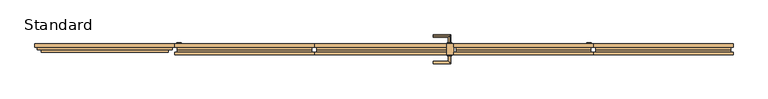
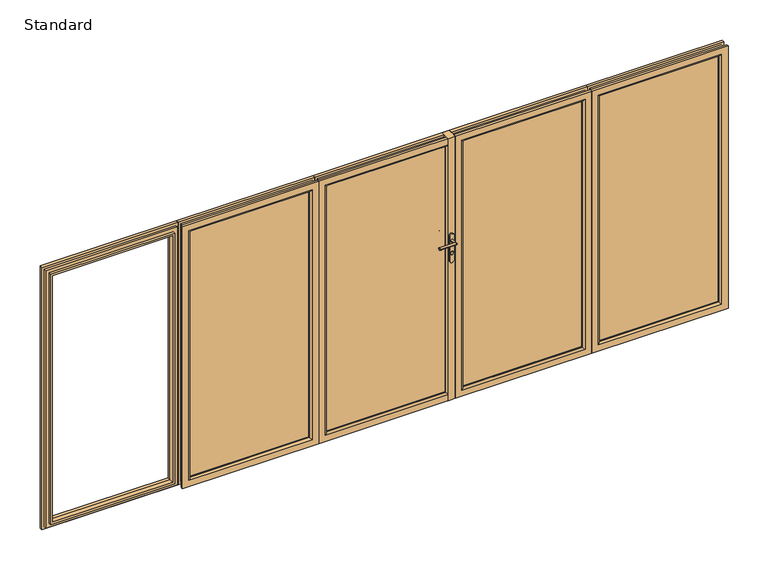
"""IFC4 building model written with IfcOpenShell, lengths in millimetres: door geometry, SMARTS_Visofold1000 : Standard."""

from ifc_helpers import new_model, si_unit, point, frame, frame_2d, origin, origin_with_axes, place, context, project, spatial, polyline, circle_curve, ellipse_curve, trimmed, segment, composite_curve, outline, extrude, faceted_brep, source, transform, mapped, element, save
from ifc_brep_helpers import plane_surface, cylinder_surface, advanced_brep


def standard_4c84618e(model_context):
    return source(origin(), model_context, "Body", "SolidModel", [
        extrude(outline(composite_curve([segment(polyline([(1228.0996413, 1430.0), (1040.0996413, 1430.0)]), True, "CONTINUOUS"), segment(trimmed(circle_curve(frame_2d((1040.0996413, 1446.0)), 16.0), [point((1040.0996413, 1430.0))], [point((1040.0996413, 1462.0))], False, "CARTESIAN"), True, "CONTINUOUS"), segment(polyline([(1040.0996413, 1462.0), (1228.0996413, 1462.0)]), True, "CONTINUOUS"), segment(trimmed(circle_curve(frame_2d((1228.0996413, 1446.0)), 16.0), [point((1228.0996413, 1462.0))], [point((1228.0996413, 1430.0))], False, "CARTESIAN"), True, "CONTINUOUS")], self_intersect=False)), frame((0.0, 75.0, 0.0), z_axis=(0.0, 1.0, 0.0), x_axis=(0.0, 0.0, 1.0)), (0.0, 0.0, 1.0), 10.0),
        extrude(outline(polyline([(45.0, 1431.0), (1955.0, 1431.0), (1955.0, 537.0), (45.0, 537.0), (45.0, 1431.0)]), holes=[polyline([(1939.5, 1415.5), (60.5, 1415.5), (60.5, 552.5), (1939.5, 552.5), (1939.5, 1415.5)])]), frame((0.0, 17.4, 0.0), z_axis=(0.0, 1.0, 0.0), x_axis=(0.0, 0.0, 1.0)), (0.0, 0.0, 1.0), 35.0),
        faceted_brep([(1476.0, 74.4, 0.0), (1476.0, 74.4, 2000.0), (1476.0, 52.4, 2000.0), (1476.0, 52.4, 0.0), (1415.5, 52.4, 60.5), (1415.5, 52.4, 1939.5), (1415.5, 74.4, 1939.5), (1415.5, 74.4, 60.5), (492.0, 74.4, 2000.0), (492.0, 52.4, 2000.0), (552.5, 52.4, 1939.5), (552.5, 74.4, 1939.5), (492.0, 74.4, 0.0), (492.0, 52.4, 0.0), (552.5, 52.4, 60.5), (552.5, 74.4, 60.5), (1458.1308519, 34.8, 17.8691481), (1458.1308519, 34.8, 1982.1308519), (509.8691481, 34.8, 1982.1308519), (509.8691481, 34.8, 17.8691481), (1431.0, 34.8, 1955.0), (1431.0, 34.8, 45.0), (537.0, 34.8, 45.0), (537.0, 34.8, 1955.0), (1458.1308519, 52.4, 17.8691481), (1458.1308519, 52.4, 1982.1308519), (1431.0, 52.4, 1955.0), (1431.0, 52.4, 45.0), (509.8691481, 52.4, 1982.1308519), (537.0, 52.4, 1955.0), (509.8691481, 52.4, 17.8691481), (537.0, 52.4, 45.0)], [[[0, 1, 2, 3]], [[4, 5, 6, 7]], [[1, 8, 9, 2]], [[5, 10, 11, 6]], [[8, 12, 13, 9]], [[10, 14, 15, 11]], [[12, 0, 3, 13]], [[1, 0, 12, 8], [7, 6, 11, 15]], [[14, 4, 7, 15]], [[16, 17, 18, 19], [20, 21, 22, 23]], [[24, 25, 17, 16]], [[21, 20, 26, 27]], [[25, 28, 18, 17]], [[20, 23, 29, 26]], [[28, 30, 19, 18]], [[23, 22, 31, 29]], [[30, 24, 16, 19]], [[3, 2, 9, 13], [25, 24, 30, 28]], [[27, 26, 29, 31], [5, 4, 14, 10]], [[22, 21, 27, 31]]]),
        advanced_brep(
        [(1415.5, 13.3, 60.5), (1415.5, 13.3, 1939.5), (1415.5, 17.4, 1939.5), (1415.5, 17.4, 60.5), (1476.0, 17.4, 0.0), (1476.0, 17.4, 2000.0), (1476.0, 0.0, 2000.0), (1476.0, 0.0, 0.0), (552.5, 13.3, 1939.5), (552.5, 17.4, 1939.5), (492.0, 17.4, 2000.0), (492.0, 0.0, 2000.0), (552.5, 13.3, 60.5), (552.5, 17.4, 60.5), (492.0, 17.4, 0.0), (492.0, 0.0, 0.0), (1428.8, 0.0, 1952.8), (1428.8, 0.0, 47.2), (539.2, 0.0, 47.2), (539.2, 0.0, 1952.8), (1458.1308519, 34.8, 17.8691481), (1458.1308519, 34.8, 1982.1308519), (1458.1308519, 17.4, 1982.1308519), (1458.1308519, 17.4, 17.8691481), (509.8691481, 34.8, 1982.1308519), (509.8691481, 17.4, 1982.1308519), (509.8691481, 34.8, 17.8691481), (509.8691481, 17.4, 17.8691481), (1431.0, 17.4, 45.0), (1431.0, 17.4, 1955.0), (1431.0, 34.8, 1955.0), (1431.0, 34.8, 45.0), (537.0, 17.4, 1955.0), (537.0, 34.8, 1955.0), (537.0, 17.4, 45.0), (537.0, 34.8, 45.0)],
        [
            (0, 1),
            (1, 2),
            (2, 3),
            (3, 0),
            (4, 5),
            (5, 6),
            (6, 7),
            (7, 4),
            (1, 8),
            (8, 9),
            (9, 2),
            (5, 10),
            (10, 11),
            (11, 6),
            (8, 12),
            (12, 13),
            (13, 9),
            (10, 14),
            (14, 15),
            (15, 11),
            (12, 0),
            (3, 13),
            (15, 7),
            (16, 17),
            (17, 18),
            (18, 19),
            (19, 16),
            (14, 4),
            (16, 1, ellipse_curve(frame((1428.8, 13.3, 1952.8), z_axis=(0.7071067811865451, 0.0, -0.7071067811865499), x_axis=(-0.70710678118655, 0.0, -0.7071067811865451)), 18.8090404, 13.3)),
            (0, 17, ellipse_curve(frame((1428.8, 13.3, 47.2), z_axis=(0.70710678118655, 0.0, 0.707106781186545), x_axis=(0.707106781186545, 0.0, -0.7071067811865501)), 18.8090404, 13.3)),
            (19, 8, ellipse_curve(frame((539.2, 13.3, 1952.8), z_axis=(0.70710678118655, 0.0, 0.707106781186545), x_axis=(0.707106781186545, 0.0, -0.7071067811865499)), 18.8090404, 13.3)),
            (18, 12, ellipse_curve(frame((539.2, 13.3, 47.2), z_axis=(-0.7071067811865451, 0.0, 0.7071067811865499), x_axis=(0.70710678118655, 0.0, 0.7071067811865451)), 18.8090404, 13.3)),
            (20, 21),
            (21, 22),
            (22, 23),
            (23, 20),
            (21, 24),
            (24, 25),
            (25, 22),
            (24, 26),
            (26, 27),
            (27, 25),
            (27, 23),
            (26, 20),
            (28, 29),
            (29, 30),
            (30, 31),
            (31, 28),
            (29, 32),
            (32, 33),
            (33, 30),
            (32, 34),
            (34, 35),
            (35, 33),
            (34, 28),
            (31, 35),
        ],
        [
            plane_surface(frame((1415.5, 17.4, 60.5), z_axis=(-1.0, 0.0, 0.0), x_axis=(0.0, 0.0, 1.0))),
            plane_surface(frame((1476.0, 0.0, 0.0), z_axis=(1.0, 0.0, 0.0), x_axis=(0.0, 0.0, 1.0))),
            plane_surface(frame((1415.5, 17.4, 1939.5), z_axis=(0.0, 0.0, -1.0), x_axis=(-1.0, 0.0, 0.0))),
            plane_surface(frame((1476.0, 0.0, 2000.0), z_axis=(0.0, 0.0, 1.0), x_axis=(-1.0, 0.0, 0.0))),
            plane_surface(frame((552.5, 17.4, 1939.5), z_axis=(1.0, 0.0, 0.0), x_axis=(0.0, 0.0, -1.0))),
            plane_surface(frame((492.0, 0.0, 2000.0), z_axis=(-1.0, 0.0, 0.0), x_axis=(0.0, 0.0, -1.0))),
            plane_surface(frame((552.5, 17.4, 60.5), z_axis=(0.0, 0.0, 1.0), x_axis=(1.0, 0.0, 0.0))),
            plane_surface(frame((539.2, 0.0, 47.2), z_axis=(0.0, -1.0, 0.0), x_axis=(1.0, 0.0, 0.0))),
            plane_surface(frame((492.0, 0.0, 0.0), z_axis=(0.0, 0.0, -1.0), x_axis=(1.0, 0.0, 0.0))),
            cylinder_surface(frame((1428.8, 13.3, 0.0), z_axis=(0.0, 0.0, -1.0), x_axis=(0.0, 1.0, 0.0)), 13.3),
            cylinder_surface(frame((1476.0, 13.3, 1952.8), z_axis=(1.0, 0.0, 0.0), x_axis=(0.0, 1.0, 0.0)), 13.3),
            cylinder_surface(frame((539.2, 13.3, 2000.0), z_axis=(0.0, 0.0, 1.0), x_axis=(0.0, 1.0, 0.0)), 13.3),
            cylinder_surface(frame((492.0, 13.3, 47.2), z_axis=(-1.0, 0.0, 0.0), x_axis=(0.0, 1.0, 0.0)), 13.3),
            plane_surface(frame((1458.1308519, 17.4, 17.8691481), z_axis=(1.0, 0.0, 0.0), x_axis=(0.0, 0.0, 1.0))),
            plane_surface(frame((1458.1308519, 17.4, 1982.1308519), z_axis=(0.0, 0.0, 1.0), x_axis=(-1.0, 0.0, 0.0))),
            plane_surface(frame((509.8691481, 17.4, 1982.1308519), z_axis=(-1.0, 0.0, 0.0), x_axis=(0.0, 0.0, -1.0))),
            plane_surface(frame((492.0, 17.4, 0.0), z_axis=(0.0, 1.0, 0.0), x_axis=(1.0, 0.0, 0.0))),
            plane_surface(frame((509.8691481, 17.4, 17.8691481), z_axis=(0.0, 0.0, -1.0), x_axis=(1.0, 0.0, 0.0))),
            plane_surface(frame((1431.0, 34.8, 45.0), z_axis=(-1.0, 0.0, 0.0), x_axis=(0.0, 0.0, 1.0))),
            plane_surface(frame((1431.0, 34.8, 1955.0), z_axis=(0.0, 0.0, -1.0), x_axis=(-1.0, 0.0, 0.0))),
            plane_surface(frame((537.0, 34.8, 1955.0), z_axis=(1.0, 0.0, 0.0), x_axis=(0.0, 0.0, -1.0))),
            plane_surface(frame((537.0, 34.8, 45.0), z_axis=(0.0, 0.0, 1.0), x_axis=(1.0, 0.0, 0.0))),
            plane_surface(frame((537.0, 17.4, 45.0), z_axis=(0.0, 1.0, 0.0), x_axis=(1.0, 0.0, 0.0))),
            plane_surface(frame((509.8691481, 34.8, 17.8691481), z_axis=(0.0, 1.0, 0.0), x_axis=(1.0, 0.0, 0.0))),
        ],
        [
            (0, [[1, 2, 3, 4]]),
            (1, [[5, 6, 7, 8]]),
            (2, [[9, 10, 11, -2]]),
            (3, [[12, 13, 14, -6]]),
            (4, [[15, 16, 17, -10]]),
            (5, [[18, 19, 20, -13]]),
            (6, [[21, -4, 22, -16]]),
            (7, [[-7, -14, -20, 23], [24, 25, 26, 27]]),
            (8, [[28, -8, -23, -19]]),
            (9, [[-24, 29, -1, 30]]),
            (10, [[-27, 31, -9, -29]]),
            (11, [[-26, 32, -15, -31]]),
            (12, [[-25, -30, -21, -32]]),
            (13, [[33, 34, 35, 36]]),
            (14, [[37, 38, 39, -34]]),
            (15, [[40, 41, 42, -38]]),
            (16, [[-5, -28, -18, -12], [-35, -39, -42, 43]]),
            (17, [[44, -36, -43, -41]]),
            (18, [[45, 46, 47, 48]]),
            (19, [[49, 50, 51, -46]]),
            (20, [[52, 53, 54, -50]]),
            (21, [[55, -48, 56, -53]]),
            (22, [[-45, -55, -52, -49], [-3, -11, -17, -22]]),
            (23, [[-33, -44, -40, -37], [-47, -51, -54, -56]]),
        ],
    ),
        extrude(outline(polyline([(1415.5, 50.1484783), (1415.5, 21.4), (552.5, 21.4), (552.5, 50.1484783), (1415.5, 50.1484783)])), frame((0.0, 0.0, 60.5), z_axis=(0.0, 0.0, 1.0), x_axis=(1.0, 0.0, 0.0)), (0.0, 0.0, 1.0), 1879.0),
        extrude(outline(polyline([(45.0, 1521.0), (45.0, 2415.0), (1955.0, 2415.0), (1955.0, 1521.0), (45.0, 1521.0)]), holes=[polyline([(1939.5, 1536.5), (1939.5, 2399.5), (60.5, 2399.5), (60.5, 1536.5), (1939.5, 1536.5)])]), frame((0.0, 17.4, 0.0), z_axis=(0.0, 1.0, 0.0), x_axis=(0.0, 0.0, 1.0)), (0.0, 0.0, 1.0), 35.0),
        faceted_brep([(1476.0, 74.4, 0.0), (1476.0, 52.4, 0.0), (1476.0, 52.4, 2000.0), (1476.0, 74.4, 2000.0), (1536.5, 52.4, 60.5), (1536.5, 74.4, 60.5), (1536.5, 74.4, 1939.5), (1536.5, 52.4, 1939.5), (2460.0, 74.4, 0.0), (2460.0, 52.4, 0.0), (2460.0, 52.4, 2000.0), (2460.0, 74.4, 2000.0), (2399.5, 74.4, 1939.5), (2399.5, 52.4, 1939.5), (2399.5, 74.4, 60.5), (2399.5, 52.4, 60.5), (1493.8691481, 34.8, 17.8691481), (2442.1308519, 34.8, 17.8691481), (2442.1308519, 34.8, 1982.1308519), (1493.8691481, 34.8, 1982.1308519), (1521.0, 34.8, 1955.0), (2415.0, 34.8, 1955.0), (2415.0, 34.8, 45.0), (1521.0, 34.8, 45.0), (1493.8691481, 52.4, 17.8691481), (1493.8691481, 52.4, 1982.1308519), (1521.0, 52.4, 45.0), (1521.0, 52.4, 1955.0), (2442.1308519, 52.4, 1982.1308519), (2415.0, 52.4, 1955.0), (2442.1308519, 52.4, 17.8691481), (2415.0, 52.4, 45.0)], [[[0, 1, 2, 3]], [[4, 5, 6, 7]], [[8, 9, 1, 0]], [[3, 2, 10, 11]], [[7, 6, 12, 13]], [[11, 10, 9, 8]], [[13, 12, 14, 15]], [[3, 11, 8, 0], [5, 14, 12, 6]], [[15, 14, 5, 4]], [[16, 17, 18, 19], [20, 21, 22, 23]], [[24, 16, 19, 25]], [[23, 26, 27, 20]], [[25, 19, 18, 28]], [[20, 27, 29, 21]], [[28, 18, 17, 30]], [[21, 29, 31, 22]], [[30, 17, 16, 24]], [[1, 9, 10, 2], [25, 28, 30, 24]], [[26, 31, 29, 27], [7, 13, 15, 4]], [[22, 31, 26, 23]]]),
        advanced_brep(
        [(1536.5, 13.3, 60.5), (1536.5, 17.4, 60.5), (1536.5, 17.4, 1939.5), (1536.5, 13.3, 1939.5), (1476.0, 17.4, 0.0), (1476.0, 0.0, 0.0), (1476.0, 0.0, 2000.0), (1476.0, 17.4, 2000.0), (2399.5, 17.4, 1939.5), (2399.5, 13.3, 1939.5), (2460.0, 0.0, 2000.0), (2460.0, 17.4, 2000.0), (2399.5, 17.4, 60.5), (2399.5, 13.3, 60.5), (2460.0, 0.0, 0.0), (2460.0, 17.4, 0.0), (1523.2, 0.0, 1952.8), (2412.8, 0.0, 1952.8), (2412.8, 0.0, 47.2), (1523.2, 0.0, 47.2), (1493.8691481, 34.8, 17.8691481), (1493.8691481, 17.4, 17.8691481), (1493.8691481, 17.4, 1982.1308519), (1493.8691481, 34.8, 1982.1308519), (2442.1308519, 17.4, 1982.1308519), (2442.1308519, 34.8, 1982.1308519), (2442.1308519, 17.4, 17.8691481), (2442.1308519, 34.8, 17.8691481), (1521.0, 17.4, 45.0), (1521.0, 34.8, 45.0), (1521.0, 34.8, 1955.0), (1521.0, 17.4, 1955.0), (2415.0, 34.8, 1955.0), (2415.0, 17.4, 1955.0), (2415.0, 34.8, 45.0), (2415.0, 17.4, 45.0)],
        [
            (0, 1),
            (1, 2),
            (2, 3),
            (3, 0),
            (4, 5),
            (5, 6),
            (6, 7),
            (7, 4),
            (2, 8),
            (8, 9),
            (9, 3),
            (6, 10),
            (10, 11),
            (11, 7),
            (8, 12),
            (12, 13),
            (13, 9),
            (10, 14),
            (14, 15),
            (15, 11),
            (12, 1),
            (0, 13),
            (5, 14),
            (16, 17),
            (17, 18),
            (18, 19),
            (19, 16),
            (4, 15),
            (19, 0, ellipse_curve(frame((1523.2, 13.3, 47.2), z_axis=(-0.70710678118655, 0.0, 0.707106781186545), x_axis=(-0.707106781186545, 0.0, -0.7071067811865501)), 18.8090404, 13.3)),
            (3, 16, ellipse_curve(frame((1523.2, 13.3, 1952.8), z_axis=(-0.7071067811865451, 0.0, -0.7071067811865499), x_axis=(0.70710678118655, 0.0, -0.7071067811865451)), 18.8090404, 13.3)),
            (9, 17, ellipse_curve(frame((2412.8, 13.3, 1952.8), z_axis=(-0.70710678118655, 0.0, 0.707106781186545), x_axis=(-0.707106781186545, 0.0, -0.7071067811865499)), 18.8090404, 13.3)),
            (13, 18, ellipse_curve(frame((2412.8, 13.3, 47.2), z_axis=(0.7071067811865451, 0.0, 0.7071067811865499), x_axis=(-0.70710678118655, 0.0, 0.7071067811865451)), 18.8090404, 13.3)),
            (20, 21),
            (21, 22),
            (22, 23),
            (23, 20),
            (22, 24),
            (24, 25),
            (25, 23),
            (24, 26),
            (26, 27),
            (27, 25),
            (21, 26),
            (20, 27),
            (28, 29),
            (29, 30),
            (30, 31),
            (31, 28),
            (30, 32),
            (32, 33),
            (33, 31),
            (32, 34),
            (34, 35),
            (35, 33),
            (34, 29),
            (28, 35),
        ],
        [
            plane_surface(frame((1536.5, 17.4, 60.5), z_axis=(1.0, 0.0, 0.0), x_axis=(0.0, 0.0, 1.0))),
            plane_surface(frame((1476.0, 0.0, 0.0), z_axis=(-1.0, 0.0, 0.0), x_axis=(0.0, 0.0, 1.0))),
            plane_surface(frame((1536.5, 17.4, 1939.5), z_axis=(0.0, 0.0, -1.0), x_axis=(1.0, 0.0, 0.0))),
            plane_surface(frame((1476.0, 0.0, 2000.0), z_axis=(0.0, 0.0, 1.0), x_axis=(1.0, 0.0, 0.0))),
            plane_surface(frame((2399.5, 17.4, 1939.5), z_axis=(-1.0, 0.0, 0.0), x_axis=(0.0, 0.0, -1.0))),
            plane_surface(frame((2460.0, 0.0, 2000.0), z_axis=(1.0, 0.0, 0.0), x_axis=(0.0, 0.0, -1.0))),
            plane_surface(frame((2399.5, 17.4, 60.5), z_axis=(0.0, 0.0, 1.0), x_axis=(-1.0, 0.0, 0.0))),
            plane_surface(frame((2412.8, 0.0, 47.2), z_axis=(0.0, -1.0, 0.0), x_axis=(-1.0, 0.0, 0.0))),
            plane_surface(frame((2460.0, 0.0, 0.0), z_axis=(0.0, 0.0, -1.0), x_axis=(-1.0, 0.0, 0.0))),
            cylinder_surface(frame((1523.2, 13.3, 0.0), z_axis=(0.0, 0.0, -1.0), x_axis=(0.0, 1.0, 0.0)), 13.3),
            cylinder_surface(frame((1476.0, 13.3, 1952.8), z_axis=(-1.0, 0.0, 0.0), x_axis=(0.0, 1.0, 0.0)), 13.3),
            cylinder_surface(frame((2412.8, 13.3, 2000.0), z_axis=(0.0, 0.0, 1.0), x_axis=(0.0, 1.0, 0.0)), 13.3),
            cylinder_surface(frame((2460.0, 13.3, 47.2), z_axis=(1.0, 0.0, 0.0), x_axis=(0.0, 1.0, 0.0)), 13.3),
            plane_surface(frame((1493.8691481, 17.4, 17.8691481), z_axis=(-1.0, 0.0, 0.0), x_axis=(0.0, 0.0, 1.0))),
            plane_surface(frame((1493.8691481, 17.4, 1982.1308519), z_axis=(0.0, 0.0, 1.0), x_axis=(1.0, 0.0, 0.0))),
            plane_surface(frame((2442.1308519, 17.4, 1982.1308519), z_axis=(1.0, 0.0, 0.0), x_axis=(0.0, 0.0, -1.0))),
            plane_surface(frame((2460.0, 17.4, 0.0), z_axis=(0.0, 1.0, 0.0), x_axis=(-1.0, 0.0, 0.0))),
            plane_surface(frame((2442.1308519, 17.4, 17.8691481), z_axis=(0.0, 0.0, -1.0), x_axis=(-1.0, 0.0, 0.0))),
            plane_surface(frame((1521.0, 34.8, 45.0), z_axis=(1.0, 0.0, 0.0), x_axis=(0.0, 0.0, 1.0))),
            plane_surface(frame((1521.0, 34.8, 1955.0), z_axis=(0.0, 0.0, -1.0), x_axis=(1.0, 0.0, 0.0))),
            plane_surface(frame((2415.0, 34.8, 1955.0), z_axis=(-1.0, 0.0, 0.0), x_axis=(0.0, 0.0, -1.0))),
            plane_surface(frame((2415.0, 34.8, 45.0), z_axis=(0.0, 0.0, 1.0), x_axis=(-1.0, 0.0, 0.0))),
            plane_surface(frame((2415.0, 17.4, 45.0), z_axis=(0.0, 1.0, 0.0), x_axis=(-1.0, 0.0, 0.0))),
            plane_surface(frame((2442.1308519, 34.8, 17.8691481), z_axis=(0.0, 1.0, 0.0), x_axis=(-1.0, 0.0, 0.0))),
        ],
        [
            (0, [[1, 2, 3, 4]]),
            (1, [[5, 6, 7, 8]]),
            (2, [[-3, 9, 10, 11]]),
            (3, [[-7, 12, 13, 14]]),
            (4, [[-10, 15, 16, 17]]),
            (5, [[-13, 18, 19, 20]]),
            (6, [[-16, 21, -1, 22]]),
            (7, [[23, -18, -12, -6], [24, 25, 26, 27]]),
            (8, [[-19, -23, -5, 28]]),
            (9, [[29, -4, 30, -27]]),
            (10, [[-30, -11, 31, -24]]),
            (11, [[-31, -17, 32, -25]]),
            (12, [[-32, -22, -29, -26]]),
            (13, [[33, 34, 35, 36]]),
            (14, [[-35, 37, 38, 39]]),
            (15, [[-38, 40, 41, 42]]),
            (16, [[-14, -20, -28, -8], [43, -40, -37, -34]]),
            (17, [[-41, -43, -33, 44]]),
            (18, [[45, 46, 47, 48]]),
            (19, [[-47, 49, 50, 51]]),
            (20, [[-50, 52, 53, 54]]),
            (21, [[-53, 55, -45, 56]]),
            (22, [[-51, -54, -56, -48], [-21, -15, -9, -2]]),
            (23, [[-39, -42, -44, -36], [-55, -52, -49, -46]]),
        ],
    ),
        extrude(outline(polyline([(1536.5, 50.1484783), (2399.5, 50.1484783), (2399.5, 21.4), (1536.5, 21.4), (1536.5, 50.1484783)])), frame((0.0, 0.0, 60.5), z_axis=(0.0, 0.0, 1.0), x_axis=(1.0, 0.0, 0.0)), (0.0, 0.0, 1.0), 1879.0),
        extrude(outline(polyline([(442.0, 0.0), (442.0, 75.1750992), (492.0, 75.1750992), (492.0, 0.0), (442.0, 0.0)])), origin_with_axes(), (0.0, 0.0, 1.0), 2000.0),
        extrude(outline(composite_curve([segment(trimmed(circle_curve(frame_2d((1228.0996413, -1446.0)), 16.0), [point((1228.0996413, -1430.0))], [point((1228.0996413, -1462.0))], False, "CARTESIAN"), True, "CONTINUOUS"), segment(polyline([(1228.0996413, -1462.0), (1040.0996413, -1462.0)]), True, "CONTINUOUS"), segment(trimmed(circle_curve(frame_2d((1040.0996413, -1446.0)), 16.0), [point((1040.0996413, -1462.0))], [point((1040.0996413, -1430.0))], False, "CARTESIAN"), True, "CONTINUOUS"), segment(polyline([(1040.0996413, -1430.0), (1228.0996413, -1430.0)]), True, "CONTINUOUS")], self_intersect=False)), frame((0.0, 75.0, 0.0), z_axis=(0.0, 1.0, 0.0), x_axis=(0.0, 0.0, 1.0)), (0.0, 0.0, 1.0), 10.0),
        extrude(outline(polyline([(45.0, -1431.0), (45.0, -537.0), (1955.0, -537.0), (1955.0, -1431.0), (45.0, -1431.0)]), holes=[polyline([(1939.5, -1415.5), (1939.5, -552.5), (60.5, -552.5), (60.5, -1415.5), (1939.5, -1415.5)])]), frame((0.0, 17.4, 0.0), z_axis=(0.0, 1.0, 0.0), x_axis=(0.0, 0.0, 1.0)), (0.0, 0.0, 1.0), 35.0),
        faceted_brep([(-1476.0, 74.4, 0.0), (-1476.0, 52.4, 0.0), (-1476.0, 52.4, 2000.0), (-1476.0, 74.4, 2000.0), (-1415.5, 52.4, 60.5), (-1415.5, 74.4, 60.5), (-1415.5, 74.4, 1939.5), (-1415.5, 52.4, 1939.5), (-492.0, 52.4, 2000.0), (-492.0, 74.4, 2000.0), (-552.5, 74.4, 1939.5), (-552.5, 52.4, 1939.5), (-492.0, 52.4, 0.0), (-492.0, 74.4, 0.0), (-552.5, 74.4, 60.5), (-552.5, 52.4, 60.5), (-1458.1308519, 34.8, 17.8691481), (-509.8691481, 34.8, 17.8691481), (-509.8691481, 34.8, 1982.1308519), (-1458.1308519, 34.8, 1982.1308519), (-1431.0, 34.8, 1955.0), (-537.0, 34.8, 1955.0), (-537.0, 34.8, 45.0), (-1431.0, 34.8, 45.0), (-1458.1308519, 52.4, 17.8691481), (-1458.1308519, 52.4, 1982.1308519), (-1431.0, 52.4, 45.0), (-1431.0, 52.4, 1955.0), (-509.8691481, 52.4, 1982.1308519), (-537.0, 52.4, 1955.0), (-509.8691481, 52.4, 17.8691481), (-537.0, 52.4, 45.0)], [[[0, 1, 2, 3]], [[4, 5, 6, 7]], [[3, 2, 8, 9]], [[7, 6, 10, 11]], [[9, 8, 12, 13]], [[11, 10, 14, 15]], [[13, 12, 1, 0]], [[3, 9, 13, 0], [5, 14, 10, 6]], [[15, 14, 5, 4]], [[16, 17, 18, 19], [20, 21, 22, 23]], [[24, 16, 19, 25]], [[23, 26, 27, 20]], [[25, 19, 18, 28]], [[20, 27, 29, 21]], [[28, 18, 17, 30]], [[21, 29, 31, 22]], [[30, 17, 16, 24]], [[1, 12, 8, 2], [25, 28, 30, 24]], [[26, 31, 29, 27], [7, 11, 15, 4]], [[22, 31, 26, 23]]]),
        advanced_brep(
        [(-1415.5, 13.3, 60.5), (-1415.5, 17.4, 60.5), (-1415.5, 17.4, 1939.5), (-1415.5, 13.3, 1939.5), (-1476.0, 17.4, 0.0), (-1476.0, 0.0, 0.0), (-1476.0, 0.0, 2000.0), (-1476.0, 17.4, 2000.0), (-552.5, 17.4, 1939.5), (-552.5, 13.3, 1939.5), (-492.0, 0.0, 2000.0), (-492.0, 17.4, 2000.0), (-552.5, 17.4, 60.5), (-552.5, 13.3, 60.5), (-492.0, 0.0, 0.0), (-492.0, 17.4, 0.0), (-1428.8, 0.0, 1952.8), (-539.2, 0.0, 1952.8), (-539.2, 0.0, 47.2), (-1428.8, 0.0, 47.2), (-1458.1308519, 34.8, 17.8691481), (-1458.1308519, 17.4, 17.8691481), (-1458.1308519, 17.4, 1982.1308519), (-1458.1308519, 34.8, 1982.1308519), (-509.8691481, 17.4, 1982.1308519), (-509.8691481, 34.8, 1982.1308519), (-509.8691481, 17.4, 17.8691481), (-509.8691481, 34.8, 17.8691481), (-1431.0, 17.4, 45.0), (-1431.0, 34.8, 45.0), (-1431.0, 34.8, 1955.0), (-1431.0, 17.4, 1955.0), (-537.0, 34.8, 1955.0), (-537.0, 17.4, 1955.0), (-537.0, 34.8, 45.0), (-537.0, 17.4, 45.0)],
        [
            (0, 1),
            (1, 2),
            (2, 3),
            (3, 0),
            (4, 5),
            (5, 6),
            (6, 7),
            (7, 4),
            (2, 8),
            (8, 9),
            (9, 3),
            (6, 10),
            (10, 11),
            (11, 7),
            (8, 12),
            (12, 13),
            (13, 9),
            (10, 14),
            (14, 15),
            (15, 11),
            (12, 1),
            (0, 13),
            (5, 14),
            (16, 17),
            (17, 18),
            (18, 19),
            (19, 16),
            (4, 15),
            (19, 0, ellipse_curve(frame((-1428.8, 13.3, 47.2), z_axis=(-0.70710678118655, 0.0, 0.707106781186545), x_axis=(-0.707106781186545, 0.0, -0.7071067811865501)), 18.8090404, 13.3)),
            (3, 16, ellipse_curve(frame((-1428.8, 13.3, 1952.8), z_axis=(-0.7071067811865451, 0.0, -0.7071067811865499), x_axis=(0.70710678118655, 0.0, -0.7071067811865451)), 18.8090404, 13.3)),
            (9, 17, ellipse_curve(frame((-539.2, 13.3, 1952.8), z_axis=(-0.70710678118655, 0.0, 0.707106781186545), x_axis=(-0.707106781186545, 0.0, -0.7071067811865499)), 18.8090404, 13.3)),
            (13, 18, ellipse_curve(frame((-539.2, 13.3, 47.2), z_axis=(0.7071067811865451, 0.0, 0.7071067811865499), x_axis=(-0.70710678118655, 0.0, 0.7071067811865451)), 18.8090404, 13.3)),
            (20, 21),
            (21, 22),
            (22, 23),
            (23, 20),
            (22, 24),
            (24, 25),
            (25, 23),
            (24, 26),
            (26, 27),
            (27, 25),
            (21, 26),
            (20, 27),
            (28, 29),
            (29, 30),
            (30, 31),
            (31, 28),
            (30, 32),
            (32, 33),
            (33, 31),
            (32, 34),
            (34, 35),
            (35, 33),
            (34, 29),
            (28, 35),
        ],
        [
            plane_surface(frame((-1415.5, 17.4, 60.5), z_axis=(1.0, 0.0, 0.0), x_axis=(0.0, 0.0, 1.0))),
            plane_surface(frame((-1476.0, 0.0, 0.0), z_axis=(-1.0, 0.0, 0.0), x_axis=(0.0, 0.0, 1.0))),
            plane_surface(frame((-1415.5, 17.4, 1939.5), z_axis=(0.0, 0.0, -1.0), x_axis=(1.0, 0.0, 0.0))),
            plane_surface(frame((-1476.0, 0.0, 2000.0), z_axis=(0.0, 0.0, 1.0), x_axis=(1.0, 0.0, 0.0))),
            plane_surface(frame((-552.5, 17.4, 1939.5), z_axis=(-1.0, 0.0, 0.0), x_axis=(0.0, 0.0, -1.0))),
            plane_surface(frame((-492.0, 0.0, 2000.0), z_axis=(1.0, 0.0, 0.0), x_axis=(0.0, 0.0, -1.0))),
            plane_surface(frame((-552.5, 17.4, 60.5), z_axis=(0.0, 0.0, 1.0), x_axis=(-1.0, 0.0, 0.0))),
            plane_surface(frame((-539.2, 0.0, 47.2), z_axis=(0.0, -1.0, 0.0), x_axis=(-1.0, 0.0, 0.0))),
            plane_surface(frame((-492.0, 0.0, 0.0), z_axis=(0.0, 0.0, -1.0), x_axis=(-1.0, 0.0, 0.0))),
            cylinder_surface(frame((-1428.8, 13.3, 0.0), z_axis=(0.0, 0.0, -1.0), x_axis=(0.0, 1.0, 0.0)), 13.3),
            cylinder_surface(frame((-1476.0, 13.3, 1952.8), z_axis=(-1.0, 0.0, 0.0), x_axis=(0.0, 1.0, 0.0)), 13.3),
            cylinder_surface(frame((-539.2, 13.3, 2000.0), z_axis=(0.0, 0.0, 1.0), x_axis=(0.0, 1.0, 0.0)), 13.3),
            cylinder_surface(frame((-492.0, 13.3, 47.2), z_axis=(1.0, 0.0, 0.0), x_axis=(0.0, 1.0, 0.0)), 13.3),
            plane_surface(frame((-1458.1308519, 17.4, 17.8691481), z_axis=(-1.0, 0.0, 0.0), x_axis=(0.0, 0.0, 1.0))),
            plane_surface(frame((-1458.1308519, 17.4, 1982.1308519), z_axis=(0.0, 0.0, 1.0), x_axis=(1.0, 0.0, 0.0))),
            plane_surface(frame((-509.8691481, 17.4, 1982.1308519), z_axis=(1.0, 0.0, 0.0), x_axis=(0.0, 0.0, -1.0))),
            plane_surface(frame((-492.0, 17.4, 0.0), z_axis=(0.0, 1.0, 0.0), x_axis=(-1.0, 0.0, 0.0))),
            plane_surface(frame((-509.8691481, 17.4, 17.8691481), z_axis=(0.0, 0.0, -1.0), x_axis=(-1.0, 0.0, 0.0))),
            plane_surface(frame((-1431.0, 34.8, 45.0), z_axis=(1.0, 0.0, 0.0), x_axis=(0.0, 0.0, 1.0))),
            plane_surface(frame((-1431.0, 34.8, 1955.0), z_axis=(0.0, 0.0, -1.0), x_axis=(1.0, 0.0, 0.0))),
            plane_surface(frame((-537.0, 34.8, 1955.0), z_axis=(-1.0, 0.0, 0.0), x_axis=(0.0, 0.0, -1.0))),
            plane_surface(frame((-537.0, 34.8, 45.0), z_axis=(0.0, 0.0, 1.0), x_axis=(-1.0, 0.0, 0.0))),
            plane_surface(frame((-537.0, 17.4, 45.0), z_axis=(0.0, 1.0, 0.0), x_axis=(-1.0, 0.0, 0.0))),
            plane_surface(frame((-509.8691481, 34.8, 17.8691481), z_axis=(0.0, 1.0, 0.0), x_axis=(-1.0, 0.0, 0.0))),
        ],
        [
            (0, [[1, 2, 3, 4]]),
            (1, [[5, 6, 7, 8]]),
            (2, [[-3, 9, 10, 11]]),
            (3, [[-7, 12, 13, 14]]),
            (4, [[-10, 15, 16, 17]]),
            (5, [[-13, 18, 19, 20]]),
            (6, [[-16, 21, -1, 22]]),
            (7, [[23, -18, -12, -6], [24, 25, 26, 27]]),
            (8, [[-19, -23, -5, 28]]),
            (9, [[29, -4, 30, -27]]),
            (10, [[-30, -11, 31, -24]]),
            (11, [[-31, -17, 32, -25]]),
            (12, [[-32, -22, -29, -26]]),
            (13, [[33, 34, 35, 36]]),
            (14, [[-35, 37, 38, 39]]),
            (15, [[-38, 40, 41, 42]]),
            (16, [[-14, -20, -28, -8], [43, -40, -37, -34]]),
            (17, [[-41, -43, -33, 44]]),
            (18, [[45, 46, 47, 48]]),
            (19, [[-47, 49, 50, 51]]),
            (20, [[-50, 52, 53, 54]]),
            (21, [[-53, 55, -45, 56]]),
            (22, [[-51, -54, -56, -48], [-21, -15, -9, -2]]),
            (23, [[-39, -42, -44, -36], [-55, -52, -49, -46]]),
        ],
    ),
        extrude(outline(polyline([(-1415.5, 50.1484783), (-552.5, 50.1484783), (-552.5, 21.4), (-1415.5, 21.4), (-1415.5, 50.1484783)])), frame((0.0, 0.0, 60.5), z_axis=(0.0, 0.0, 1.0), x_axis=(1.0, 0.0, 0.0)), (0.0, 0.0, 1.0), 1879.0),
        advanced_brep(
        [(462.0, 75.0, 1232.5996413), (462.0, 75.0, 1215.5996413), (462.0, 130.0, 1232.5996413), (462.0, 130.0, 1215.5996413), (347.0, 130.0, 1232.5996413), (347.0, 130.0, 1215.5996413)],
        [
            (0, 1, circle_curve(frame((462.0, 75.0, 1224.0996413), z_axis=(0.0, -1.0, 0.0), x_axis=(0.0, 0.0, -1.0)), 8.5)),
            (1, 0, circle_curve(frame((462.0, 75.0, 1224.0996413), z_axis=(0.0, -1.0, 0.0), x_axis=(0.0, 0.0, -1.0)), 8.5)),
            (0, 2),
            (2, 3, ellipse_curve(frame((462.0, 130.0, 1224.0996413), z_axis=(0.7071067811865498, -0.7071067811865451, 0.0), x_axis=(-0.707106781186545, -0.70710678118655, 0.0)), 12.0208153, 8.5)),
            (3, 1),
            (3, 2, ellipse_curve(frame((462.0, 130.0, 1224.0996413), z_axis=(0.7071067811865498, -0.7071067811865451, 0.0), x_axis=(-0.707106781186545, -0.70710678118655, 0.0)), 12.0208153, 8.5)),
            (4, 5, circle_curve(frame((347.0, 130.0, 1224.0996413), z_axis=(-1.0, 0.0, 0.0), x_axis=(0.0, 0.0, -1.0)), 8.5)),
            (5, 4, circle_curve(frame((347.0, 130.0, 1224.0996413), z_axis=(-1.0, 0.0, 0.0), x_axis=(0.0, 0.0, -1.0)), 8.5)),
            (2, 4),
            (5, 3),
        ],
        [
            plane_surface(frame((462.0, 75.0, 1224.0996413), z_axis=(0.0, -1.0, 0.0), x_axis=(0.0, 0.0, -1.0))),
            cylinder_surface(frame((462.0, 75.0, 1224.0996413), z_axis=(0.0, -1.0, 0.0), x_axis=(0.0, 0.0, -1.0)), 8.5),
            plane_surface(frame((347.0, 130.0, 1224.0996413), z_axis=(-1.0, 0.0, 0.0), x_axis=(0.0, 0.0, -1.0))),
            cylinder_surface(frame((462.0, 130.0, 1224.0996413), z_axis=(1.0, 0.0, 0.0), x_axis=(0.0, 0.0, -1.0)), 8.5),
        ],
        [
            (0, [[1, 2]]),
            (1, [[3, 4, 5, -1]]),
            (1, [[-5, 6, -3, -2]]),
            (2, [[7, 8]]),
            (3, [[9, -8, 10, -4]]),
            (3, [[-10, -7, -9, -6]]),
        ],
    ),
        extrude(outline(composite_curve([segment(polyline([(1258.0996413, 446.0), (1070.0996413, 446.0)]), True, "CONTINUOUS"), segment(trimmed(circle_curve(frame_2d((1070.0996413, 462.0)), 16.0), [point((1070.0996413, 446.0))], [point((1070.0996413, 478.0))], False, "CARTESIAN"), True, "CONTINUOUS"), segment(polyline([(1070.0996413, 478.0), (1258.0996413, 478.0)]), True, "CONTINUOUS"), segment(trimmed(circle_curve(frame_2d((1258.0996413, 462.0)), 16.0), [point((1258.0996413, 478.0))], [point((1258.0996413, 446.0))], False, "CARTESIAN"), True, "CONTINUOUS")], self_intersect=False)), frame((0.0, 75.0, 0.0), z_axis=(0.0, 1.0, 0.0), x_axis=(0.0, 0.0, 1.0)), (0.0, 0.0, 1.0), 10.0),
        advanced_brep(
        [(453.5, 0.0, 1224.0996413), (470.5, 0.0, 1224.0996413), (470.5, -63.5, 1224.0996413), (453.5, -46.5, 1224.0996413), (347.0, -46.5, 1224.0996413), (347.0, -63.5, 1224.0996413)],
        [
            (0, 1, circle_curve(frame((462.0, 0.0, 1224.0996413), z_axis=(0.0, 1.0, 0.0), x_axis=(1.0, 0.0, 0.0)), 8.5)),
            (1, 0, circle_curve(frame((462.0, 0.0, 1224.0996413), z_axis=(0.0, 1.0, 0.0), x_axis=(1.0, 0.0, 0.0)), 8.5)),
            (1, 2),
            (2, 3, ellipse_curve(frame((462.0, -55.0, 1224.0996413), z_axis=(0.7071067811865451, 0.7071067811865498, 0.0), x_axis=(-0.7071067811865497, 0.7071067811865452, 0.0)), 12.0208153, 8.5)),
            (3, 0),
            (3, 2, ellipse_curve(frame((462.0, -55.0, 1224.0996413), z_axis=(0.7071067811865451, 0.7071067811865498, 0.0), x_axis=(-0.7071067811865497, 0.7071067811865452, 0.0)), 12.0208153, 8.5)),
            (4, 5, circle_curve(frame((347.0, -55.0, 1224.0996413), z_axis=(-1.0, 0.0, 0.0), x_axis=(0.0, -1.0, 0.0)), 8.5)),
            (5, 4, circle_curve(frame((347.0, -55.0, 1224.0996413), z_axis=(-1.0, 0.0, 0.0), x_axis=(0.0, -1.0, 0.0)), 8.5)),
            (2, 5),
            (4, 3),
        ],
        [
            plane_surface(frame((462.0, 0.0, 1224.0996413), z_axis=(0.0, 1.0, 0.0), x_axis=(0.0, 0.0, -1.0))),
            cylinder_surface(frame((462.0, 0.0, 1224.0996413), z_axis=(0.0, 1.0, 0.0), x_axis=(1.0, 0.0, 0.0)), 8.5),
            plane_surface(frame((347.0, -55.0, 1224.0996413), z_axis=(-1.0, 0.0, 0.0), x_axis=(0.0, 0.0, -1.0))),
            cylinder_surface(frame((462.0, -55.0, 1224.0996413), z_axis=(1.0, 0.0, 0.0), x_axis=(0.0, -1.0, 0.0)), 8.5),
        ],
        [
            (0, [[1, 2]]),
            (1, [[3, 4, 5, -2]]),
            (1, [[-5, 6, -3, -1]]),
            (2, [[7, 8]]),
            (3, [[9, -7, 10, -4]]),
            (3, [[-10, -8, -9, -6]]),
        ],
    ),
        extrude(outline(composite_curve([segment(polyline([(1258.0996413, 446.0), (1070.0996413, 446.0)]), True, "CONTINUOUS"), segment(trimmed(circle_curve(frame_2d((1070.0996413, 462.0)), 16.0), [point((1070.0996413, 446.0))], [point((1070.0996413, 478.0))], False, "CARTESIAN"), True, "CONTINUOUS"), segment(polyline([(1070.0996413, 478.0), (1258.0996413, 478.0)]), True, "CONTINUOUS"), segment(trimmed(circle_curve(frame_2d((1258.0996413, 462.0)), 16.0), [point((1258.0996413, 478.0))], [point((1258.0996413, 446.0))], False, "CARTESIAN"), True, "CONTINUOUS")], self_intersect=False)), frame((0.0, -10.0, 0.0), z_axis=(0.0, 1.0, 0.0), x_axis=(0.0, 0.0, 1.0)), (0.0, 0.0, 1.0), 10.0),
        extrude(outline(composite_curve([segment(polyline([(1125.1769586, 457.0106229), (1117.5996413, 457.0106229)]), True, "CONTINUOUS"), segment(trimmed(circle_curve(frame_2d((1117.5996413, 462.0106229)), 5.0), [point((1117.5996413, 457.0106229))], [point((1117.5996413, 467.0106229))], False, "CARTESIAN"), True, "CONTINUOUS"), segment(polyline([(1117.5996413, 467.0106229), (1125.27562, 467.0106229)]), True, "CONTINUOUS"), segment(trimmed(circle_curve(frame_2d((1132.0996413, 461.9428094)), 8.5), [point((1125.27562, 467.0106229))], [point((1125.1769586, 457.0106229))], False, "CARTESIAN"), True, "CONTINUOUS")], self_intersect=False)), frame((0.0, 85.0, 0.0), z_axis=(0.0, 1.0, 0.0), x_axis=(0.0, 0.0, 1.0)), (0.0, 0.0, 1.0), 2.0),
        extrude(outline(composite_curve([segment(polyline([(1125.1769586, 457.0106229), (1117.5996413, 457.0106229)]), True, "CONTINUOUS"), segment(trimmed(circle_curve(frame_2d((1117.5996413, 462.0106229)), 5.0), [point((1117.5996413, 457.0106229))], [point((1117.5996413, 467.0106229))], False, "CARTESIAN"), True, "CONTINUOUS"), segment(polyline([(1117.5996413, 467.0106229), (1125.27562, 467.0106229)]), True, "CONTINUOUS"), segment(trimmed(circle_curve(frame_2d((1132.0996413, 461.9428094)), 8.5), [point((1125.27562, 467.0106229))], [point((1125.1769586, 457.0106229))], False, "CARTESIAN"), True, "CONTINUOUS")], self_intersect=False)), frame((0.0, -12.0, 0.0), z_axis=(0.0, 1.0, 0.0), x_axis=(0.0, 0.0, 1.0)), (0.0, 0.0, 1.0), 2.0),
        extrude(outline(polyline([(45.0, 447.0), (1955.0, 447.0), (1955.0, -447.0), (45.0, -447.0), (45.0, 447.0)]), holes=[polyline([(1939.5, 431.5), (60.5, 431.5), (60.5, -431.5), (1939.5, -431.5), (1939.5, 431.5)])]), frame((0.0, 17.4, 0.0), z_axis=(0.0, 1.0, 0.0), x_axis=(0.0, 0.0, 1.0)), (0.0, 0.0, 1.0), 35.0),
        faceted_brep([(492.0, 74.4, 0.0), (492.0, 74.4, 2000.0), (492.0, 52.4, 2000.0), (492.0, 52.4, 0.0), (431.5, 52.4, 60.5), (431.5, 52.4, 1939.5), (431.5, 74.4, 1939.5), (431.5, 74.4, 60.5), (-492.0, 74.4, 2000.0), (-492.0, 52.4, 2000.0), (-431.5, 52.4, 1939.5), (-431.5, 74.4, 1939.5), (-492.0, 74.4, 0.0), (-492.0, 52.4, 0.0), (-431.5, 52.4, 60.5), (-431.5, 74.4, 60.5), (474.1308519, 34.8, 17.8691481), (474.1308519, 34.8, 1982.1308519), (-474.1308519, 34.8, 1982.1308519), (-474.1308519, 34.8, 17.8691481), (447.0, 34.8, 1955.0), (447.0, 34.8, 45.0), (-447.0, 34.8, 45.0), (-447.0, 34.8, 1955.0), (474.1308519, 52.4, 17.8691481), (474.1308519, 52.4, 1982.1308519), (447.0, 52.4, 1955.0), (447.0, 52.4, 45.0), (-474.1308519, 52.4, 1982.1308519), (-447.0, 52.4, 1955.0), (-474.1308519, 52.4, 17.8691481), (-447.0, 52.4, 45.0)], [[[0, 1, 2, 3]], [[4, 5, 6, 7]], [[1, 8, 9, 2]], [[5, 10, 11, 6]], [[8, 12, 13, 9]], [[10, 14, 15, 11]], [[12, 0, 3, 13]], [[1, 0, 12, 8], [7, 6, 11, 15]], [[14, 4, 7, 15]], [[16, 17, 18, 19], [20, 21, 22, 23]], [[24, 25, 17, 16]], [[21, 20, 26, 27]], [[25, 28, 18, 17]], [[20, 23, 29, 26]], [[28, 30, 19, 18]], [[23, 22, 31, 29]], [[30, 24, 16, 19]], [[3, 2, 9, 13], [25, 24, 30, 28]], [[27, 26, 29, 31], [5, 4, 14, 10]], [[22, 21, 27, 31]]]),
        advanced_brep(
        [(431.5, 13.3, 60.5), (431.5, 13.3, 1939.5), (431.5, 17.4, 1939.5), (431.5, 17.4, 60.5), (492.0, 17.4, 0.0), (492.0, 17.4, 2000.0), (492.0, 0.0, 2000.0), (492.0, 0.0, 0.0), (-431.5, 13.3, 1939.5), (-431.5, 17.4, 1939.5), (-492.0, 17.4, 2000.0), (-492.0, 0.0, 2000.0), (-431.5, 13.3, 60.5), (-431.5, 17.4, 60.5), (-492.0, 17.4, 0.0), (-492.0, 0.0, 0.0), (444.8, 0.0, 1952.8), (444.8, 0.0, 47.2), (-444.8, 0.0, 47.2), (-444.8, 0.0, 1952.8), (474.1308519, 34.8, 17.8691481), (474.1308519, 34.8, 1982.1308519), (474.1308519, 17.4, 1982.1308519), (474.1308519, 17.4, 17.8691481), (-474.1308519, 34.8, 1982.1308519), (-474.1308519, 17.4, 1982.1308519), (-474.1308519, 34.8, 17.8691481), (-474.1308519, 17.4, 17.8691481), (447.0, 17.4, 45.0), (447.0, 17.4, 1955.0), (447.0, 34.8, 1955.0), (447.0, 34.8, 45.0), (-447.0, 17.4, 1955.0), (-447.0, 34.8, 1955.0), (-447.0, 17.4, 45.0), (-447.0, 34.8, 45.0)],
        [
            (0, 1),
            (1, 2),
            (2, 3),
            (3, 0),
            (4, 5),
            (5, 6),
            (6, 7),
            (7, 4),
            (1, 8),
            (8, 9),
            (9, 2),
            (5, 10),
            (10, 11),
            (11, 6),
            (8, 12),
            (12, 13),
            (13, 9),
            (10, 14),
            (14, 15),
            (15, 11),
            (12, 0),
            (3, 13),
            (15, 7),
            (16, 17),
            (17, 18),
            (18, 19),
            (19, 16),
            (14, 4),
            (16, 1, ellipse_curve(frame((444.8, 13.3, 1952.8), z_axis=(0.7071067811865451, 0.0, -0.7071067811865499), x_axis=(-0.70710678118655, 0.0, -0.7071067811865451)), 18.8090404, 13.3)),
            (0, 17, ellipse_curve(frame((444.8, 13.3, 47.2), z_axis=(0.70710678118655, 0.0, 0.707106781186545), x_axis=(0.707106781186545, 0.0, -0.7071067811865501)), 18.8090404, 13.3)),
            (19, 8, ellipse_curve(frame((-444.8, 13.3, 1952.8), z_axis=(0.70710678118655, 0.0, 0.707106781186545), x_axis=(0.707106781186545, 0.0, -0.7071067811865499)), 18.8090404, 13.3)),
            (18, 12, ellipse_curve(frame((-444.8, 13.3, 47.2), z_axis=(-0.7071067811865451, 0.0, 0.7071067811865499), x_axis=(0.70710678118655, 0.0, 0.7071067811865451)), 18.8090404, 13.3)),
            (20, 21),
            (21, 22),
            (22, 23),
            (23, 20),
            (21, 24),
            (24, 25),
            (25, 22),
            (24, 26),
            (26, 27),
            (27, 25),
            (27, 23),
            (26, 20),
            (28, 29),
            (29, 30),
            (30, 31),
            (31, 28),
            (29, 32),
            (32, 33),
            (33, 30),
            (32, 34),
            (34, 35),
            (35, 33),
            (34, 28),
            (31, 35),
        ],
        [
            plane_surface(frame((431.5, 17.4, 60.5), z_axis=(-1.0, 0.0, 0.0), x_axis=(0.0, 0.0, 1.0))),
            plane_surface(frame((492.0, 0.0, 0.0), z_axis=(1.0, 0.0, 0.0), x_axis=(0.0, 0.0, 1.0))),
            plane_surface(frame((431.5, 17.4, 1939.5), z_axis=(0.0, 0.0, -1.0), x_axis=(-1.0, 0.0, 0.0))),
            plane_surface(frame((492.0, 0.0, 2000.0), z_axis=(0.0, 0.0, 1.0), x_axis=(-1.0, 0.0, 0.0))),
            plane_surface(frame((-431.5, 17.4, 1939.5), z_axis=(1.0, 0.0, 0.0), x_axis=(0.0, 0.0, -1.0))),
            plane_surface(frame((-492.0, 0.0, 2000.0), z_axis=(-1.0, 0.0, 0.0), x_axis=(0.0, 0.0, -1.0))),
            plane_surface(frame((-431.5, 17.4, 60.5), z_axis=(0.0, 0.0, 1.0), x_axis=(1.0, 0.0, 0.0))),
            plane_surface(frame((-444.8, 0.0, 47.2), z_axis=(0.0, -1.0, 0.0), x_axis=(1.0, 0.0, 0.0))),
            plane_surface(frame((-492.0, 0.0, 0.0), z_axis=(0.0, 0.0, -1.0), x_axis=(1.0, 0.0, 0.0))),
            cylinder_surface(frame((444.8, 13.3, 0.0), z_axis=(0.0, 0.0, -1.0), x_axis=(0.0, 1.0, 0.0)), 13.3),
            cylinder_surface(frame((492.0, 13.3, 1952.8), z_axis=(1.0, 0.0, 0.0), x_axis=(0.0, 1.0, 0.0)), 13.3),
            cylinder_surface(frame((-444.8, 13.3, 2000.0), z_axis=(0.0, 0.0, 1.0), x_axis=(0.0, 1.0, 0.0)), 13.3),
            cylinder_surface(frame((-492.0, 13.3, 47.2), z_axis=(-1.0, 0.0, 0.0), x_axis=(0.0, 1.0, 0.0)), 13.3),
            plane_surface(frame((474.1308519, 17.4, 17.8691481), z_axis=(1.0, 0.0, 0.0), x_axis=(0.0, 0.0, 1.0))),
            plane_surface(frame((474.1308519, 17.4, 1982.1308519), z_axis=(0.0, 0.0, 1.0), x_axis=(-1.0, 0.0, 0.0))),
            plane_surface(frame((-474.1308519, 17.4, 1982.1308519), z_axis=(-1.0, 0.0, 0.0), x_axis=(0.0, 0.0, -1.0))),
            plane_surface(frame((-492.0, 17.4, 0.0), z_axis=(0.0, 1.0, 0.0), x_axis=(1.0, 0.0, 0.0))),
            plane_surface(frame((-474.1308519, 17.4, 17.8691481), z_axis=(0.0, 0.0, -1.0), x_axis=(1.0, 0.0, 0.0))),
            plane_surface(frame((447.0, 34.8, 45.0), z_axis=(-1.0, 0.0, 0.0), x_axis=(0.0, 0.0, 1.0))),
            plane_surface(frame((447.0, 34.8, 1955.0), z_axis=(0.0, 0.0, -1.0), x_axis=(-1.0, 0.0, 0.0))),
            plane_surface(frame((-447.0, 34.8, 1955.0), z_axis=(1.0, 0.0, 0.0), x_axis=(0.0, 0.0, -1.0))),
            plane_surface(frame((-447.0, 34.8, 45.0), z_axis=(0.0, 0.0, 1.0), x_axis=(1.0, 0.0, 0.0))),
            plane_surface(frame((-447.0, 17.4, 45.0), z_axis=(0.0, 1.0, 0.0), x_axis=(1.0, 0.0, 0.0))),
            plane_surface(frame((-474.1308519, 34.8, 17.8691481), z_axis=(0.0, 1.0, 0.0), x_axis=(1.0, 0.0, 0.0))),
        ],
        [
            (0, [[1, 2, 3, 4]]),
            (1, [[5, 6, 7, 8]]),
            (2, [[9, 10, 11, -2]]),
            (3, [[12, 13, 14, -6]]),
            (4, [[15, 16, 17, -10]]),
            (5, [[18, 19, 20, -13]]),
            (6, [[21, -4, 22, -16]]),
            (7, [[-7, -14, -20, 23], [24, 25, 26, 27]]),
            (8, [[28, -8, -23, -19]]),
            (9, [[-24, 29, -1, 30]]),
            (10, [[-27, 31, -9, -29]]),
            (11, [[-26, 32, -15, -31]]),
            (12, [[-25, -30, -21, -32]]),
            (13, [[33, 34, 35, 36]]),
            (14, [[37, 38, 39, -34]]),
            (15, [[40, 41, 42, -38]]),
            (16, [[-5, -28, -18, -12], [-35, -39, -42, 43]]),
            (17, [[44, -36, -43, -41]]),
            (18, [[45, 46, 47, 48]]),
            (19, [[49, 50, 51, -46]]),
            (20, [[52, 53, 54, -50]]),
            (21, [[55, -48, 56, -53]]),
            (22, [[-45, -55, -52, -49], [-3, -11, -17, -22]]),
            (23, [[-33, -44, -40, -37], [-47, -51, -54, -56]]),
        ],
    ),
        extrude(outline(polyline([(431.5, 50.1484783), (431.5, 21.4), (-431.5, 21.4), (-431.5, 50.1484783), (431.5, 50.1484783)])), frame((0.0, 0.0, 60.5), z_axis=(0.0, 0.0, 1.0), x_axis=(1.0, 0.0, 0.0)), (0.0, 0.0, 1.0), 1879.0),
        extrude(outline(polyline([(45.0, -1521.0), (1955.0, -1521.0), (1955.0, -2415.0), (45.0, -2415.0), (45.0, -1521.0)]), holes=[polyline([(1939.5, -1536.5), (60.5, -1536.5), (60.5, -2399.5), (1939.5, -2399.5), (1939.5, -1536.5)])]), frame((0.0, 17.4, 0.0), z_axis=(0.0, 1.0, 0.0), x_axis=(0.0, 0.0, 1.0)), (0.0, 0.0, 1.0), 35.0),
        faceted_brep([(-1476.0, 74.4, 0.0), (-1476.0, 74.4, 2000.0), (-1476.0, 52.4, 2000.0), (-1476.0, 52.4, 0.0), (-1536.5, 52.4, 60.5), (-1536.5, 52.4, 1939.5), (-1536.5, 74.4, 1939.5), (-1536.5, 74.4, 60.5), (-2460.0, 74.4, 0.0), (-2460.0, 52.4, 0.0), (-2460.0, 74.4, 2000.0), (-2460.0, 52.4, 2000.0), (-2399.5, 52.4, 1939.5), (-2399.5, 74.4, 1939.5), (-2399.5, 52.4, 60.5), (-2399.5, 74.4, 60.5), (-1493.8691481, 34.8, 17.8691481), (-1493.8691481, 34.8, 1982.1308519), (-2442.1308519, 34.8, 1982.1308519), (-2442.1308519, 34.8, 17.8691481), (-1521.0, 34.8, 1955.0), (-1521.0, 34.8, 45.0), (-2415.0, 34.8, 45.0), (-2415.0, 34.8, 1955.0), (-1493.8691481, 52.4, 17.8691481), (-1493.8691481, 52.4, 1982.1308519), (-1521.0, 52.4, 1955.0), (-1521.0, 52.4, 45.0), (-2442.1308519, 52.4, 1982.1308519), (-2415.0, 52.4, 1955.0), (-2442.1308519, 52.4, 17.8691481), (-2415.0, 52.4, 45.0)], [[[0, 1, 2, 3]], [[4, 5, 6, 7]], [[8, 0, 3, 9]], [[1, 10, 11, 2]], [[5, 12, 13, 6]], [[10, 8, 9, 11]], [[12, 14, 15, 13]], [[1, 0, 8, 10], [7, 6, 13, 15]], [[14, 4, 7, 15]], [[16, 17, 18, 19], [20, 21, 22, 23]], [[24, 25, 17, 16]], [[21, 20, 26, 27]], [[25, 28, 18, 17]], [[20, 23, 29, 26]], [[28, 30, 19, 18]], [[23, 22, 31, 29]], [[30, 24, 16, 19]], [[3, 2, 11, 9], [25, 24, 30, 28]], [[27, 26, 29, 31], [5, 4, 14, 12]], [[22, 21, 27, 31]]]),
    ])


if __name__ == "__main__":
    model = new_model("IFC4")
    model_context = context("Model", 3, world=origin())
    ifc_project = project(units=[si_unit("LENGTHUNIT", "METRE", prefix="MILLI")], contexts=[model_context])
    site = spatial("IfcSite", under=ifc_project)
    building = spatial("IfcBuilding", under=site)
    placement = place(None, origin())
    standard_shape = standard_4c84618e(model_context)
    element("IfcDoor", 1, ObjectType="SMARTS_Visofold1000 : Standard", at=placement, inside=building, context=model_context, shape_type="MappedRepresentation", body=[
        mapped(standard_shape, transform((0.0, 0.0, 0.0), x_axis=(1.0, 0.0, 0.0), y_axis=(0.0, 1.0, 0.0), z_axis=(0.0, 0.0, 1.0))),
    ])
    save(model, "model.ifc")
